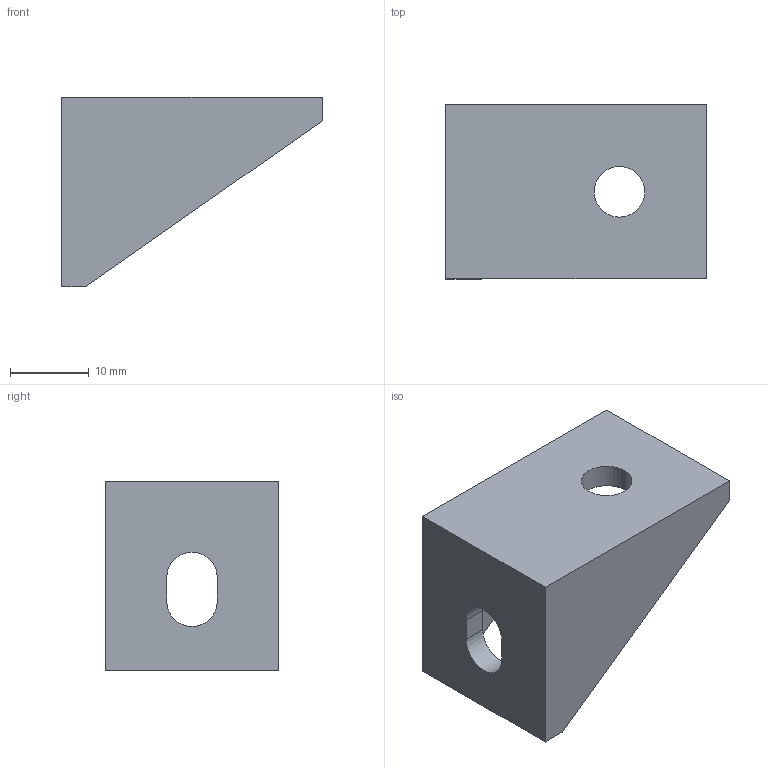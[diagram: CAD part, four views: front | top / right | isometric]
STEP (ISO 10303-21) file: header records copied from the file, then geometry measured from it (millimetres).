
FILE_DESCRIPTION (( 'STEP AP214' ), '1' );
FILE_NAME ('FBFA 24.step', '2017-04-05T08:01:08', ( '' ), ( '' ), 'SwSTEP 2.0', 'SolidWorks 2015', '' );
FILE_SCHEMA (( 'AUTOMOTIVE_DESIGN' ));
Length unit declared in the file: millimetre
Products named in the file (1): FBFA 24
Bounding box: 33 x 22 x 24 mm (x, y, z)
Volume: 5203.3 mm3; surface area: 3977.3 mm2
Topology: 1 solids, 1 shells, 19 faces, 47 edges, 30 vertices
Faces by surface type: plane 14, cylinder 5
Entity records: 601 total; most frequent: DIRECTION 97, CARTESIAN_POINT 97, ORIENTED_EDGE 94, EDGE_CURVE 47, LINE 37, VECTOR 37, AXIS2_PLACEMENT_3D 30, VERTEX_POINT 30
